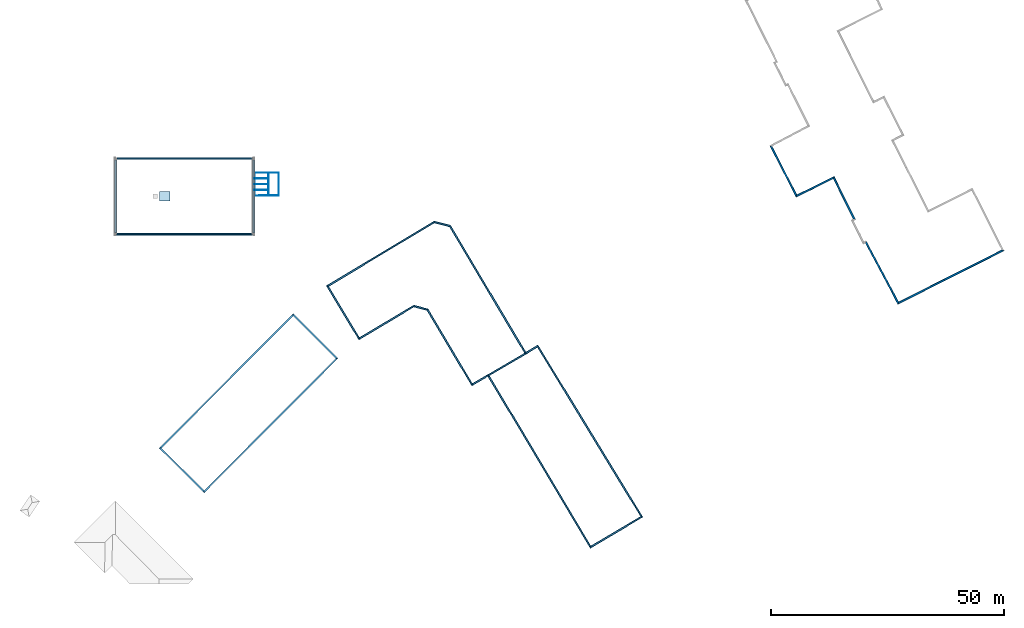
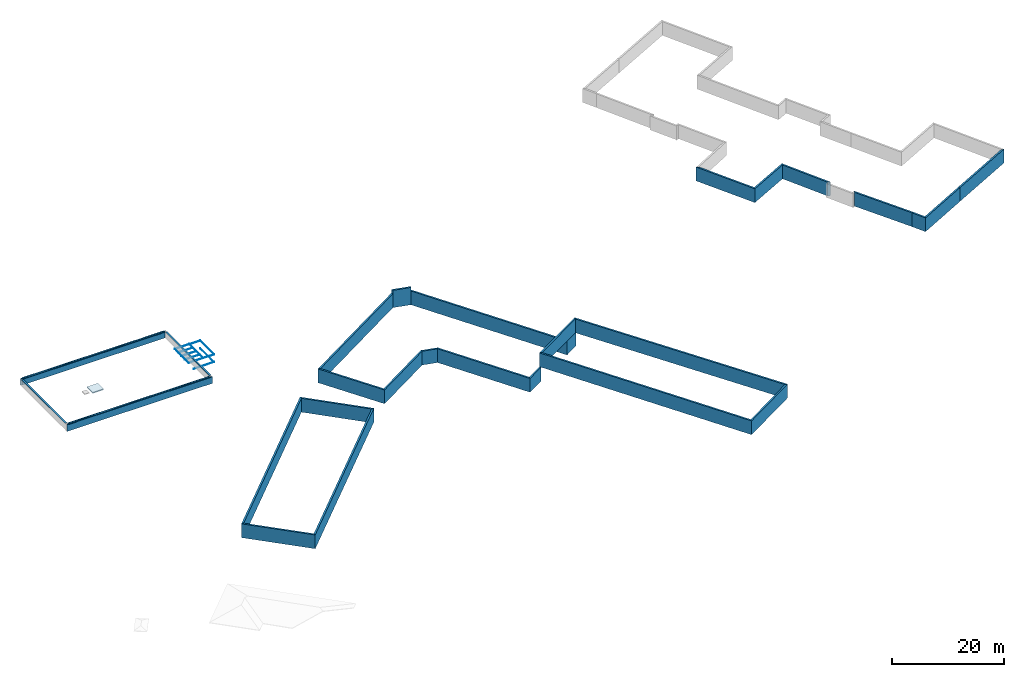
# One storey, part 1 of 8: 26 walls, 14 beams, 1 slab.
"""IFC2X3 building model written with IfcOpenShell, lengths in metres."""

from ifc_helpers import new_model, entity, si_unit, converted_unit, derived_unit, money_unit, direction, frame, origin_with_axes, origin_2d_with_axis, place, context, subcontext, project, spatial, polyline, rectangle, outline, extrude, material, layer, layer_set, layer_usage, type_object, element, save


model = new_model("IFC2X3")

# Units and contexts
model_context = context("Model", 3, precision=1e-05, world=origin_with_axes(), true_north=direction((0.0, 1.0)))
body_context = subcontext(model_context, "Body", "Model", "MODEL_VIEW")
ifc_project = project(units=[si_unit("LENGTHUNIT", "METRE"), si_unit("AREAUNIT", "SQUARE_METRE"), si_unit("VOLUMEUNIT", "CUBIC_METRE"), converted_unit("PLANEANGLEUNIT", "DEGREE", entity("IfcPlaneAngleMeasure", 0.0174532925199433), si_unit("PLANEANGLEUNIT", "RADIAN"), dimensions=[0, 0, 0, 0, 0, 0, 0]), money_unit("EUR"), converted_unit("TIMEUNIT", "Year", entity("IfcTimeMeasure", 31557600.0), si_unit("TIMEUNIT", "SECOND"), dimensions=[0, 0, 1, 0, 0, 0, 0]), si_unit("MASSUNIT", "GRAM", prefix="KILO"), si_unit("THERMODYNAMICTEMPERATUREUNIT", "DEGREE_CELSIUS"), si_unit("LUMINOUSINTENSITYUNIT", "LUMEN"), si_unit("ENERGYUNIT", "JOULE", prefix="MEGA"), derived_unit("THERMALCONDUCTANCEUNIT", [(si_unit("POWERUNIT", "WATT"), 1), (si_unit("LENGTHUNIT", "METRE"), -1), (si_unit("THERMODYNAMICTEMPERATUREUNIT", "KELVIN"), -1)]), derived_unit("SPECIFICHEATCAPACITYUNIT", [(si_unit("ENERGYUNIT", "JOULE"), 1), (si_unit("MASSUNIT", "GRAM", prefix="KILO"), -1), (si_unit("THERMODYNAMICTEMPERATUREUNIT", "KELVIN"), -1)]), derived_unit("MASSDENSITYUNIT", [(si_unit("MASSUNIT", "GRAM", prefix="KILO"), 1), (si_unit("VOLUMEUNIT", "CUBIC_METRE"), -1)])], contexts=[model_context])

# Site, building, storey
site_placement = place(None, origin_with_axes())
site = spatial("IfcSite", under=ifc_project, at=site_placement, Name="Site", CompositionType="ELEMENT")
building_placement = place(site_placement, origin_with_axes())
building = spatial("IfcBuilding", under=site, at=building_placement, Name="Bâtiment", CompositionType="ELEMENT")
storey_placement = place(building_placement, frame((0.0, 0.0, 7.12), z_axis=(0.0, 0.0, 1.0), x_axis=(1.0, 0.0, 0.0)))
storey = spatial("IfcBuildingStorey", under=building, at=storey_placement, Name="Combles", CompositionType="ELEMENT", Elevation=7.12)

# Beams
ifc_material_1 = material(Name="Métal - Fer")
beam_type_1 = type_object("IfcBeamType", Name="** COUVERTINE 01 50x5cm 379 x 50", PredefinedType="NOTDEFINED")
beam_1_placement = place(storey_placement, frame((54.09399999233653, -26.90756228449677, 1.100000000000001), z_axis=(0.0, 0.0, 1.0), x_axis=(1.0, 0.0, 0.0)))
element("IfcBeam", 1, at=beam_1_placement, inside=storey, type_object=beam_type_1, material=ifc_material_1, Name="PoBA-002", context=body_context, shape_type="SweptSolid", body=[
    extrude(outline(polyline([(-0.5020000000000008, 0.0), (-0.5000000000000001, 0.0), (-0.5000000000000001, 0.04799999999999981), (-0.125, 0.04799999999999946), (-0.125, 0.0), (-0.1230000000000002, 0.0), (-0.1230000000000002, 0.05000000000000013), (-0.5020000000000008, 0.05000000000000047), (-0.5020000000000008, 0.0)])), frame((0.0, 15.6000002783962, 0.0), z_axis=(0.0, 1.0, 0.0), x_axis=(-1.0, 0.0, 0.0)), (0.0, 0.0, -1.0), 15.6000002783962),
])
beam_2_placement = place(storey_placement, frame((25.09999999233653, -26.90756215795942, 1.100000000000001), z_axis=(0.0, 0.0, 1.0), x_axis=(1.0, 0.0, 0.0)))
element("IfcBeam", 2, at=beam_2_placement, inside=storey, type_object=beam_type_1, material=ifc_material_1, Name="PoBA-002", context=body_context, shape_type="SweptSolid", body=[
    extrude(outline(polyline([(-0.5020000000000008, 0.0), (-0.5000000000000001, 0.0), (-0.5000000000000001, 0.04799999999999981), (-0.125, 0.04799999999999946), (-0.125, 0.0), (-0.1230000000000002, 0.0), (-0.1230000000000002, 0.05000000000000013), (-0.5020000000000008, 0.05000000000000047), (-0.5020000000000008, 0.0)])), frame((0.0, 15.6000000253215, 0.0), z_axis=(0.0, -1.0, 0.0), x_axis=(1.0, 0.0, 0.0)), (0.0, 0.0, 1.0), 15.6000000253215),
])
beam_3_placement = place(storey_placement, frame((25.09999999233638, -11.30756213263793, 1.100000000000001), z_axis=(0.0, 0.0, 1.0), x_axis=(4.364260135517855e-09, -1.0, 0.0)))
element("IfcBeam", 3, at=beam_3_placement, inside=storey, type_object=beam_type_1, material=ifc_material_1, Name="PoBA-002", context=body_context, shape_type="SweptSolid", body=[
    extrude(outline(polyline([(-0.5020000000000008, 0.0), (-0.5000000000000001, 0.0), (-0.5000000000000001, 0.04799999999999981), (-0.125, 0.04799999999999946), (-0.125, 0.0), (-0.1230000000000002, 0.0), (-0.1230000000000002, 0.05000000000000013), (-0.5020000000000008, 0.05000000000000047), (-0.5020000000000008, 0.0)])), frame((0.0, 28.99400000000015, 0.0), z_axis=(0.0, -1.0, 0.0), x_axis=(1.0, 0.0, 0.0)), (0.0, 0.0, 1.0), 28.99400000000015),
])
beam_4_placement = place(storey_placement, frame((25.09999999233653, -26.90756215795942, 1.100000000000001), z_axis=(0.0, 0.0, 1.0), x_axis=(-4.364259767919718e-09, -1.0, 0.0)))
element("IfcBeam", 4, at=beam_4_placement, inside=storey, type_object=beam_type_1, material=ifc_material_1, Name="PoBA-002", context=body_context, shape_type="SweptSolid", body=[
    extrude(outline(polyline([(-0.5020000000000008, 0.0), (-0.5000000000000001, 0.0), (-0.5000000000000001, 0.04799999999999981), (-0.125, 0.04799999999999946), (-0.125, 0.0), (-0.1230000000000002, 0.0), (-0.1230000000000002, 0.05000000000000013), (-0.5020000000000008, 0.05000000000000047), (-0.5020000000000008, 0.0)])), frame((0.0, 28.994, 0.0), z_axis=(0.0, 1.0, 0.0), x_axis=(-1.0, 0.0, 0.0)), (0.0, 0.0, -1.0), 28.994),
])
ifc_material_2 = material(Name="Acier")
beam_type_2 = type_object("IfcBeamType", Name="UAP80 45 x 80", PredefinedType="NOTDEFINED")
beam_5_placement = place(storey_placement, frame((59.79999999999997, -18.95643230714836, -1.02), z_axis=(0.0, 0.0, 1.0), x_axis=(0.0, 1.0, 0.0)))
element("IfcBeam", 5, at=beam_5_placement, inside=storey, type_object=beam_type_2, material=ifc_material_2, Name="PoBA-004", context=body_context, shape_type="SweptSolid", body=[
    extrude(outline(polyline([(-0.0225, -0.04), (0.0225, -0.04), (0.0225, -0.032), (-0.0175, -0.032), (-0.0175, 0.032), (0.0225, 0.032), (0.0225, 0.04), (-0.0225, 0.04), (-0.0225, -0.04)])), frame((0.0, 5.192500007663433, 0.0), z_axis=(0.0, 1.0, 0.0), x_axis=(-1.0, 0.0, 0.0)), (0.0, 0.0, -1.0), 5.192500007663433),
])
beam_6_placement = place(storey_placement, frame((59.79999999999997, -14.00643230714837, -1.02), z_axis=(0.0, 0.0, 1.0), x_axis=(0.0, 1.0, 0.0)))
element("IfcBeam", 6, at=beam_6_placement, inside=storey, type_object=beam_type_2, material=ifc_material_2, Name="PoBA-004", context=body_context, shape_type="SweptSolid", body=[
    extrude(outline(polyline([(-0.0225, -0.04), (0.0225, -0.04), (0.0225, -0.032), (-0.0175, -0.032), (-0.0175, 0.032), (0.0225, 0.032), (0.0225, 0.04), (-0.0225, 0.04), (-0.0225, -0.04)])), frame((0.0, 5.192500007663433, 0.0), z_axis=(0.0, 1.0, 0.0), x_axis=(1.0, 0.0, 0.0)), (0.0, 0.0, -1.0), 5.192500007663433),
])
for number, where, z_axis, x_axis in (
    (7, (57.57999999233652, -14.00643230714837, -1.02), (0.0, 0.0, 1.0), (-1.0, 0.0, 0.0)),
    (8, (54.60749999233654, -14.00643230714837, -1.02), (0.0, 0.0, 1.0), (-1.0, 0.0, 0.0)),
    (9, (59.79999999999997, -14.00643230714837, -1.02), (0.0, 0.0, 1.0), (-1.0, 0.0, 0.0)),
):
    element("IfcBeam", number, at=place(storey_placement, frame(where, z_axis=z_axis, x_axis=x_axis)), inside=storey, type_object=beam_type_2, material=ifc_material_2, Name="PoBA-004", context=body_context, shape_type="SweptSolid", body=[
        extrude(outline(polyline([(-0.0225, -0.04), (0.0225, -0.04), (0.0225, -0.032), (-0.0175, -0.032), (-0.0175, 0.032), (0.0225, 0.032), (0.0225, 0.04), (-0.0225, 0.04), (-0.0225, -0.04)])), frame((0.0, 4.949999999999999, 0.0), z_axis=(0.0, 1.0, 0.0), x_axis=(-1.0, 0.0, 0.0)), (0.0, 0.0, -1.0), 4.949999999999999),
    ])
beam_type_3 = type_object("IfcBeamType", Name="Acier 50 x 50", PredefinedType="NOTDEFINED")
beam_7_placement = place(storey_placement, frame((59.77499999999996, -18.91643230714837, -2.709999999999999), z_axis=(0.0, 0.0, 1.0), x_axis=(0.0, 1.0, 0.0)))
element("IfcBeam", 10, at=beam_7_placement, inside=storey, type_object=beam_type_3, material=ifc_material_2, Name="PoBA-004", context=body_context, shape_type="SweptSolid", body=[
    extrude(rectangle(XDim=0.05, YDim=0.05, at=origin_2d_with_axis()), frame((0.0, 0.0, 0.0), z_axis=(0.0, 1.0, 0.0), x_axis=(0.0, 0.0, 1.0)), (0.0, 0.0, 1.0), 4.149999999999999),
])
beam_8_placement = place(storey_placement, frame((59.80249999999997, -18.93143230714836, -2.709999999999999), z_axis=(0.0, 0.0, 1.0), x_axis=(1.0, 0.0, 0.0)))
element("IfcBeam", 11, at=beam_8_placement, inside=storey, type_object=beam_type_3, material=ifc_material_2, Name="PoBA-004", context=body_context, shape_type="SweptSolid", body=[
    extrude(rectangle(XDim=0.05, YDim=0.05, at=origin_2d_with_axis()), frame((0.0, 0.0, 0.0), z_axis=(0.0, 1.0, 0.0), x_axis=(0.0, 0.0, 1.0)), (0.0, 0.0, 1.0), 4.89999999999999),
])
ifc_material_3 = material(Name="Aluminium")
beam_type_4 = type_object("IfcBeamType", Name="Aluminium 50 x 50", PredefinedType="NOTDEFINED")
for number, where, z_axis, x_axis in (
    (12, (57.55749999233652, -17.72047076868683, -1.034999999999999), (0.0, 0.0, 1.0), (0.0, 1.0, 0.0)),
    (13, (57.55749999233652, -16.48450923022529, -1.034999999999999), (0.0, 0.0, 1.0), (0.0, 1.0, 0.0)),
    (14, (57.55749999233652, -15.24854769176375, -1.034999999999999), (0.0, 0.0, 1.0), (0.0, 1.0, 0.0)),
):
    element("IfcBeam", number, at=place(storey_placement, frame(where, z_axis=z_axis, x_axis=x_axis)), inside=storey, type_object=beam_type_4, material=ifc_material_3, Name="PoBA-004", context=body_context, shape_type="SweptSolid", body=[
        extrude(rectangle(XDim=0.05, YDim=0.05, at=origin_2d_with_axis()), frame((0.0, 0.0, 0.0), z_axis=(0.0, 1.0, 0.0), x_axis=(0.0, 0.0, 1.0)), (0.0, 0.0, 1.0), 3.012499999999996),
    ])

# Slab
ifc_material_4 = material(Name="*FINITION SOL INT - sol souple")
ifc_layer_1 = layer(ifc_material_4, 0.02, ventilated="UNKNOWN")
ifc_material_5 = material(Name="*GENERIQUE - MAÇONNERIE")
ifc_layer_2 = layer(ifc_material_5, 0.2, ventilated="UNKNOWN")
ifc_layer_set_1 = layer_set([ifc_layer_1, ifc_layer_2], Name="*Plancher béton+FINITION")
ifc_layer_usage_1 = layer_usage(ifc_layer_set_1, "AXIS3", "NEGATIVE", 0.22)
slab_type = type_object("IfcSlabType", Name="*Plancher béton+FINITION 220", PredefinedType="FLOOR")
slab_placement = place(storey_placement, frame((34.19300800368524, -20.12456464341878, 0.4000000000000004), z_axis=(0.0, 0.0, 1.0), x_axis=(1.0, 0.0, 0.0)))
element("IfcSlab", 15, at=slab_placement, inside=storey, type_object=slab_type, material=ifc_layer_usage_1, Name="DC_BA_Isol-005", PredefinedType="FLOOR", context=body_context, shape_type="SweptSolid", body=[
    extrude(outline(polyline([(0.0, 0.0), (2.219999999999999, 0.0), (2.219999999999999, 2.027002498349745), (0.0, 2.027002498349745), (0.0, 0.0)])), frame((0.0, 0.0, -0.22), z_axis=(0.0, 0.0, 1.0), x_axis=(1.0, 0.0, 0.0)), (0.0, 0.0, 1.0), 0.22),
])

# Walls
ifc_material_6 = material(Name="*GENERIQUE - ENDUIT EXT")
ifc_layer_3 = layer(ifc_material_6, 0.02, ventilated="UNKNOWN")
ifc_layer_4 = layer(ifc_material_5, 0.2, ventilated="UNKNOWN")
ifc_material_7 = material(Name="*GENERIQUE - ISOLATION INT")
ifc_layer_5 = layer(ifc_material_7, 0.12, ventilated="UNKNOWN")
ifc_material_8 = material(Name="*PLAQUE DE PLATRE - DOUBLAGE")
ifc_layer_6 = layer(ifc_material_8, 0.013, ventilated="UNKNOWN")
ifc_layer_set_2 = layer_set([ifc_layer_3, ifc_layer_4, ifc_layer_5, ifc_layer_6], Name="*Mur MITI 36")
ifc_layer_usage_2 = layer_usage(ifc_layer_set_2, "AXIS2", "POSITIVE", -0.02)
wall_type_1 = type_object("IfcWallType", Name="*Mur MITI 36 353", PredefinedType="NOTDEFINED")
wall_1_placement = place(storey_placement, frame((72.4983360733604, -53.84594601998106, 1.000000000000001), z_axis=(0.0, 0.0, 1.0), x_axis=(-0.7089416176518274, 0.7052671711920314, 0.0)))
element("IfcWallStandardCase", 16, at=wall_1_placement, inside=storey, type_object=wall_type_1, material=ifc_layer_usage_2, Name="MC_AGL_Ext-060", context=body_context, shape_type="SweptSolid", body=[
    extrude(outline(polyline([(-0.0200082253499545, -0.01999999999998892), (13.59630887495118, -0.01999999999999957), (13.24333314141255, 0.3329999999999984), (0.3331369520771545, 0.3329999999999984), (-0.0200082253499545, -0.01999999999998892)])), origin_with_axes(), (0.0, 0.0, 1.0), 2.999999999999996),
])
ifc_layer_usage_3 = layer_usage(ifc_layer_set_2, "AXIS2", "POSITIVE", -0.02)
wall_2_placement = place(storey_placement, frame((178.7744943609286, -15.28329290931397, -6.700573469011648), z_axis=(0.0, 0.0, 1.0), x_axis=(0.4442260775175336, -0.8959147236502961, 0.0)))
element("IfcWallStandardCase", 17, at=wall_2_placement, inside=storey, type_object=wall_type_1, material=ifc_layer_usage_3, Name="MC_AGL_Ext-041", context=body_context, shape_type="SweptSolid", body=[
    extrude(outline(polyline([(0.02001353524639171, -0.02000000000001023), (9.682428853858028, -0.02000000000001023), (10.03331348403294, 0.3330000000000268), (-0.3332253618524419, 0.3330000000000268), (0.02001353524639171, -0.02000000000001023)])), origin_with_axes(), (0.0, 0.0, 1.0), 3.0),
])
ifc_layer_usage_4 = layer_usage(ifc_layer_set_2, "AXIS2", "POSITIVE", -0.02)
wall_3_placement = place(storey_placement, frame((185.6272301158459, -29.06940594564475, -6.700573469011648), z_axis=(0.0, 0.0, 1.0), x_axis=(0.4721927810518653, -0.8814953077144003, 0.0)))
element("IfcWallStandardCase", 18, at=wall_3_placement, inside=storey, type_object=wall_type_1, material=ifc_layer_usage_4, Name="MC_AGL_Ext-045", context=body_context, shape_type="SweptSolid", body=[
    extrude(outline(polyline([(0.01987737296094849, -0.02000000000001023), (12.03195418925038, -0.02000000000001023), (12.03677915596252, 0.3329999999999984), (-0.330958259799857, 0.3329999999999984), (0.01987737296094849, -0.02000000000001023)])), origin_with_axes(), (0.0, 0.0, 1.0), 3.0),
])
ifc_layer_usage_5 = layer_usage(ifc_layer_set_2, "AXIS2", "POSITIVE", -0.02)
wall_4_placement = place(storey_placement, frame((191.3087611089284, -39.67575807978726, -6.700573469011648), z_axis=(0.0, 0.0, 1.0), x_axis=(0.4479235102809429, -0.8940718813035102, 0.0)))
element("IfcWallStandardCase", 19, at=wall_4_placement, inside=storey, type_object=wall_type_1, material=ifc_layer_usage_5, Name="MC_AGL_Ext-046", context=body_context, shape_type="SweptSolid", body=[
    extrude(outline(polyline([(0.0002733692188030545, -0.01999999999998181), (2.909152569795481, -0.01999999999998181), (2.554311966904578, 0.3329999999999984), (-0.004551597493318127, 0.3329999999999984), (0.0002733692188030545, -0.01999999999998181)])), origin_with_axes(), (0.0, 0.0, 1.0), 3.0),
])
ifc_layer_usage_6 = layer_usage(ifc_layer_set_2, "AXIS2", "POSITIVE", -0.02)
wall_5_placement = place(storey_placement, frame((202.6450001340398, -37.1622177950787, -6.700573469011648), z_axis=(0.0, 0.0, 1.0), x_axis=(0.8929616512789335, 0.4501327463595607, 0.0)))
element("IfcWallStandardCase", 20, at=wall_5_placement, inside=storey, type_object=wall_type_1, material=ifc_layer_usage_6, Name="MC_AGL_Ext-048", context=body_context, shape_type="SweptSolid", body=[
    extrude(outline(polyline([(2.728087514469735e-05, -0.01999999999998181), (14.25727509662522, -0.01999999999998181), (13.90458367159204, 0.3330000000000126), (-0.000454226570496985, 0.3330000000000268), (2.728087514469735e-05, -0.01999999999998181)])), origin_with_axes(), (0.0, 0.0, 1.0), 3.0),
])
ifc_layer_usage_7 = layer_usage(ifc_layer_set_2, "AXIS2", "POSITIVE", -0.02)
wall_6_placement = place(storey_placement, frame((192.6028337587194, -42.25877491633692, -6.700573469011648), z_axis=(0.0, 0.0, 1.0), x_axis=(0.8917303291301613, 0.4525671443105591, 0.0)))
element("IfcWallStandardCase", 21, at=wall_6_placement, inside=storey, type_object=wall_type_1, material=ifc_layer_usage_7, Name="MC_AGL_Ext-047", context=body_context, shape_type="SweptSolid", body=[
    extrude(outline(polyline([(-0.02010428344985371, -0.02000000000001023), (11.26141134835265, -0.01999999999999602), (11.26189285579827, 0.3329999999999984), (0.3347363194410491, 0.3329999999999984), (-0.02010428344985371, -0.02000000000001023)])), origin_with_axes(), (0.0, 0.0, 1.0), 3.0),
])
ifc_layer_usage_8 = layer_usage(ifc_layer_set_2, "AXIS2", "POSITIVE", -0.02)
wall_7_placement = place(storey_placement, frame((170.8059068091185, -19.24111796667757, -6.700573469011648), z_axis=(0.0, 0.0, 1.0), x_axis=(0.895613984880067, 0.4448320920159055, 0.0)))
element("IfcWallStandardCase", 22, at=wall_7_placement, inside=storey, type_object=wall_type_1, material=ifc_layer_usage_8, Name="MC_AGL_Ext-040", context=body_context, shape_type="SweptSolid", body=[
    extrude(outline(polyline([(-0.01975610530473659, -0.02000000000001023), (8.877332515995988, -0.02000000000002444), (9.230571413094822, 0.3329999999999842), (0.3289391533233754, 0.3329999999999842), (-0.01975610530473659, -0.02000000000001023)])), origin_with_axes(), (0.0, 0.0, 1.0), 3.0),
])
ifc_layer_usage_9 = layer_usage(ifc_layer_set_2, "AXIS2", "NEGATIVE", 0.02)
wall_8_placement = place(storey_placement, frame((170.8059068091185, -19.24111796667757, -6.700573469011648), z_axis=(0.0, 0.0, 1.0), x_axis=(-0.4557869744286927, 0.8900888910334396, 0.0)))
element("IfcWallStandardCase", 23, at=wall_8_placement, inside=storey, type_object=wall_type_1, material=ifc_layer_usage_9, Name="MC_AGL_Ext-040", context=body_context, shape_type="SweptSolid", body=[
    extrude(outline(polyline([(0.3289391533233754, -0.3329999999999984), (12.05469288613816, -0.3329999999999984), (12.40307985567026, 0.02000000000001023), (-0.01975610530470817, 0.02000000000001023), (0.3289391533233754, -0.3329999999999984)])), origin_with_axes(), (0.0, 0.0, 1.0), 3.0),
])
ifc_layer_usage_10 = layer_usage(ifc_layer_set_2, "AXIS2", "POSITIVE", -0.02)
wall_9_placement = place(storey_placement, frame((70.0213957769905, -38.30799339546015, 1.000000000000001), z_axis=(0.0, 0.0, 1.0), x_axis=(0.5158196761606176, -0.8566971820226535, 0.0)))
element("IfcWallStandardCase", 24, at=wall_9_placement, inside=storey, type_object=wall_type_1, material=ifc_layer_usage_10, Name="MC_AGL_Ext-045", context=body_context, shape_type="SweptSolid", body=[
    extrude(outline(polyline([(-0.02002691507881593, -0.02000000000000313), (13.52509505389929, -0.01999999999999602), (13.17290351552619, 0.3330000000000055), (0.3334481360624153, 0.3330000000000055), (-0.02002691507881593, -0.02000000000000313)])), origin_with_axes(), (0.0, 0.0, 1.0), 2.999999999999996),
])
ifc_layer_usage_11 = layer_usage(ifc_layer_set_2, "AXIS2", "POSITIVE", -0.02)
wall_10_placement = place(storey_placement, frame((88.78263006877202, -42.81279641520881, 1.000000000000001), z_axis=(0.0, 0.0, 1.0), x_axis=(0.9682984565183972, -0.24979611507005, 0.0)))
element("IfcWallStandardCase", 25, at=wall_10_placement, inside=storey, type_object=wall_type_1, material=ifc_layer_usage_11, Name="MC_AGL_Ext-047", context=body_context, shape_type="SweptSolid", body=[
    extrude(outline(polyline([(0.00836337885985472, -0.01999999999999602), (2.876154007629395, -0.01999999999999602), (3.021637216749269, 0.3329999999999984), (-0.1392502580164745, 0.3329999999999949), (0.00836337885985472, -0.01999999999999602)])), origin_with_axes(), (0.0, 0.0, 1.0), 2.999999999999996),
])
ifc_layer_usage_12 = layer_usage(ifc_layer_set_2, "AXIS2", "POSITIVE", -0.02)
wall_11_placement = place(storey_placement, frame((91.57558692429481, -43.53330750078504, 1.000000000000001), z_axis=(0.0, 0.0, 1.0), x_axis=(0.5111150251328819, -0.8595123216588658, 0.0)))
element("IfcWallStandardCase", 26, at=wall_11_placement, inside=storey, type_object=wall_type_1, material=ifc_layer_usage_12, Name="MC_AGL_Ext-048", context=body_context, shape_type="SweptSolid", body=[
    extrude(outline(polyline([(0.008242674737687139, -0.01999999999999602), (18.87495966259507, -0.01999999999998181), (18.5217841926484, 0.3329999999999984), (-0.1372405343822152, 0.3329999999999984), (0.008242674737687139, -0.01999999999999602)])), origin_with_axes(), (0.0, 0.0, 1.0), 2.999999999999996),
])
ifc_layer_usage_13 = layer_usage(ifc_layer_set_2, "AXIS2", "POSITIVE", -0.02)
wall_12_placement = place(storey_placement, frame((101.2126350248, -59.73936911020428, 1.000000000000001), z_axis=(0.0, 0.0, 1.0), x_axis=(0.8592582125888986, 0.5115421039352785, 0.0)))
element("IfcWallStandardCase", 27, at=wall_12_placement, inside=storey, type_object=wall_type_1, material=ifc_layer_usage_13, Name="MC_AGL_Ext-049", context=body_context, shape_type="SweptSolid", body=[
    extrude(outline(polyline([(-0.02000994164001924, -0.02000000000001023), (4.013290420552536, -0.02000000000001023), (4.013290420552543, 0.3329999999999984), (0.3331655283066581, 0.3329999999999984), (-0.02000994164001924, -0.02000000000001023)])), origin_with_axes(), (0.0, 0.0, 1.0), 2.999999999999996),
])
ifc_layer_usage_14 = layer_usage(ifc_layer_set_2, "AXIS2", "POSITIVE", -0.02)
wall_13_placement = place(storey_placement, frame((104.5178511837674, -57.44594755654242, 4.000000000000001), z_axis=(0.0, 0.0, 1.0), x_axis=(0.5117711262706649, -0.8591218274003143, 0.0)))
element("IfcWallStandardCase", 28, at=wall_13_placement, inside=storey, type_object=wall_type_1, material=ifc_layer_usage_14, Name="MC_AGL_Ext-050", context=body_context, shape_type="SweptSolid", body=[
    extrude(outline(polyline([(-0.02011993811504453, -0.02000000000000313), (43.24436713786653, -0.02000000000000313), (42.8914988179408, 0.3330000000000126), (0.3349969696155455, 0.3329999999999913), (-0.02011993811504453, -0.02000000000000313)])), origin_with_axes(), (0.0, 0.0, 1.0), 2.999999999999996),
])
ifc_layer_usage_15 = layer_usage(ifc_layer_set_2, "AXIS2", "POSITIVE", -0.02)
wall_14_placement = place(storey_placement, frame((126.6388380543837, -94.58095124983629, 4.000000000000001), z_axis=(0.0, 0.0, 1.0), x_axis=(0.8593127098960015, 0.5114505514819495, 0.0)))
element("IfcWallStandardCase", 29, at=wall_14_placement, inside=storey, type_object=wall_type_1, material=ifc_layer_usage_15, Name="MC_AGL_Ext-051", context=body_context, shape_type="SweptSolid", body=[
    extrude(outline(polyline([(-0.01999253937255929, -0.02000000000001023), (13.10204743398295, -0.02000000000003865), (12.74510724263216, 0.33299999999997), (0.3328757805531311, 0.33299999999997), (-0.01999253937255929, -0.02000000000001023)])), origin_with_axes(), (0.0, 0.0, 1.0), 2.999999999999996),
])
ifc_layer_usage_16 = layer_usage(ifc_layer_set_2, "AXIS2", "POSITIVE", -0.02)
wall_15_placement = place(storey_placement, frame((137.8802158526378, -87.89024505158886, 4.000000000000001), z_axis=(0.0, 0.0, 1.0), x_axis=(-0.5209571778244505, 0.8535828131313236, 0.0)))
element("IfcWallStandardCase", 30, at=wall_15_placement, inside=storey, type_object=wall_type_1, material=ifc_layer_usage_16, Name="MC_AGL_Ext-052", context=body_context, shape_type="SweptSolid", body=[
    extrude(outline(polyline([(-0.02022324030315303, -0.02000000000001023), (43.17595814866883, -0.01999999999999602), (42.82880658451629, 0.3329999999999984), (0.3367169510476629, 0.3329999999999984), (-0.02022324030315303, -0.02000000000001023)])), origin_with_axes(), (0.0, 0.0, 1.0), 2.999999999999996),
])
ifc_layer_usage_17 = layer_usage(ifc_layer_set_2, "AXIS2", "POSITIVE", -0.02)
wall_16_placement = place(storey_placement, frame((115.3847148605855, -51.03160515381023, 1.000000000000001), z_axis=(0.0, 0.0, 1.0), x_axis=(-0.8585559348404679, -0.5127199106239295, 0.0)))
element("IfcWallStandardCase", 31, at=wall_16_placement, inside=storey, type_object=wall_type_1, material=ifc_layer_usage_17, Name="MC_AGL_Ext-053", context=body_context, shape_type="SweptSolid", body=[
    extrude(outline(polyline([(0.0, -0.02000000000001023), (2.978124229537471, -0.02000000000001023), (3.331863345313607, 0.3329999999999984), (0.0, 0.3329999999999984), (0.0, -0.02000000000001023)])), origin_with_axes(), (0.0, 0.0, 1.0), 2.999999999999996),
])
ifc_layer_usage_18 = layer_usage(ifc_layer_set_2, "AXIS2", "POSITIVE", -0.02)
wall_17_placement = place(storey_placement, frame((112.8106215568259, -52.56882461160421, 1.000000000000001), z_axis=(0.0, 0.0, 1.0), x_axis=(-0.5109230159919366, 0.8596264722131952, 0.0)))
element("IfcWallStandardCase", 32, at=wall_17_placement, inside=storey, type_object=wall_type_1, material=ifc_layer_usage_18, Name="MC_AGL_Ext-054", context=body_context, shape_type="SweptSolid", body=[
    extrude(outline(polyline([(0.02004187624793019, -0.01999999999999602), (31.69371470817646, -0.01999999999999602), (31.54705113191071, 0.3329999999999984), (-0.3336972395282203, 0.3330000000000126), (0.02004187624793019, -0.01999999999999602)])), origin_with_axes(), (0.0, 0.0, 1.0), 2.999999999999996),
])
ifc_layer_usage_19 = layer_usage(ifc_layer_set_2, "AXIS2", "POSITIVE", -0.02)
wall_18_placement = place(storey_placement, frame((96.62181879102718, -25.33121155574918, 1.000000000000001), z_axis=(0.0, 0.0, 1.0), x_axis=(-0.9696543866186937, 0.2444797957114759, 0.0)))
element("IfcWallStandardCase", 33, at=wall_18_placement, inside=storey, type_object=wall_type_1, material=ifc_layer_usage_19, Name="MC_AGL_Ext-055", context=body_context, shape_type="SweptSolid", body=[
    extrude(outline(polyline([(-0.0083095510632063, -0.02000000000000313), (3.62666608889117, -0.02000000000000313), (3.4799926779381, 0.3329999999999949), (0.1383540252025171, 0.3329999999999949), (-0.0083095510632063, -0.02000000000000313)])), origin_with_axes(), (0.0, 0.0, 1.0), 3.764653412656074),
])
ifc_layer_usage_20 = layer_usage(ifc_layer_set_2, "AXIS2", "POSITIVE", -0.02)
wall_19_placement = place(storey_placement, frame((93.1132640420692, -24.44659662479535, 1.000000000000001), z_axis=(0.0, 0.0, 1.0), x_axis=(-0.8573901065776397, -0.5146670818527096, 0.0)))
element("IfcWallStandardCase", 34, at=wall_19_placement, inside=storey, type_object=wall_type_1, material=ifc_layer_usage_20, Name="MC_AGL_Ext-056", context=body_context, shape_type="SweptSolid", body=[
    extrude(outline(polyline([(-0.008310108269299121, -0.01999999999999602), (26.9527709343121, -0.01999999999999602), (26.59929588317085, 0.3329999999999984), (0.1383633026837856, 0.3329999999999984), (-0.008310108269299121, -0.01999999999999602)])), origin_with_axes(), (0.0, 0.0, 1.0), 2.999999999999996),
])
ifc_layer_usage_21 = layer_usage(ifc_layer_set_2, "AXIS2", "POSITIVE", -0.02)
wall_20_placement = place(storey_placement, frame((76.98761316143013, -49.87780951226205, 1.000000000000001), z_axis=(0.0, 0.0, 1.0), x_axis=(0.8578776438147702, 0.513854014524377, 0.0)))
element("IfcWallStandardCase", 35, at=wall_20_placement, inside=storey, type_object=wall_type_1, material=ifc_layer_usage_21, Name="MC_AGL_Ext-046", context=body_context, shape_type="SweptSolid", body=[
    extrude(outline(polyline([(-0.0199541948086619, -0.02000000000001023), (13.74070327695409, -0.01999999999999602), (13.88831691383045, 0.3329999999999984), (0.332237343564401, 0.3329999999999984), (-0.0199541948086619, -0.02000000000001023)])), origin_with_axes(), (0.0, 0.0, 1.0), 2.999999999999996),
])
ifc_layer_usage_22 = layer_usage(ifc_layer_set_2, "AXIS2", "POSITIVE", -0.02)
wall_21_placement = place(storey_placement, frame((34.15653930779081, -73.13365248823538, 1.000000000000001), z_axis=(0.0, 0.0, 1.0), x_axis=(0.7106688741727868, -0.7035266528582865, 0.0)))
element("IfcWallStandardCase", 36, at=wall_21_placement, inside=storey, type_object=wall_type_1, material=ifc_layer_usage_22, Name="MC_AGL_Ext-058", context=body_context, shape_type="SweptSolid", body=[
    extrude(outline(polyline([(-0.02005048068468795, -0.01999999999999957), (13.58236516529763, -0.01999999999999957), (13.23037446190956, 0.3329999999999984), (0.333840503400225, 0.333000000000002), (-0.02005048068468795, -0.01999999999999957)])), origin_with_axes(), (0.0, 0.0, 1.0), 2.999999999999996),
])
ifc_layer_usage_23 = layer_usage(ifc_layer_set_2, "AXIS2", "POSITIVE", -0.02)
wall_22_placement = place(storey_placement, frame((62.87352472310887, -44.27102009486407, 1.000000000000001), z_axis=(0.0, 0.0, 1.0), x_axis=(-0.7053159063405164, -0.7088931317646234, 0.0)))
element("IfcWallStandardCase", 37, at=wall_22_placement, inside=storey, type_object=wall_type_1, material=ifc_layer_usage_23, Name="MC_AGL_Ext-057", context=body_context, shape_type="SweptSolid", body=[
    extrude(outline(polyline([(-0.01999862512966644, -0.01999999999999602), (40.73511894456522, -0.01999999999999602), (40.3812279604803, 0.3330000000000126), (0.3329771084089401, 0.3329999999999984), (-0.01999862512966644, -0.01999999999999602)])), origin_with_axes(), (0.0, 0.0, 1.0), 2.999999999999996),
])
ifc_layer_usage_24 = layer_usage(ifc_layer_set_2, "AXIS2", "POSITIVE", -0.02)
wall_23_placement = place(storey_placement, frame((43.79493072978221, -82.67517808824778, 1.000000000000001), z_axis=(0.0, 0.0, 1.0), x_axis=(0.7055586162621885, 0.7086515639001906, 0.0)))
element("IfcWallStandardCase", 38, at=wall_23_placement, inside=storey, type_object=wall_type_1, material=ifc_layer_usage_24, Name="MC_AGL_Ext-059", context=body_context, shape_type="SweptSolid", body=[
    extrude(outline(polyline([(-0.01994281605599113, -0.02000000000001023), (40.70182357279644, -0.01999999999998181), (40.34867839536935, 0.3329999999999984), (0.3320478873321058, 0.3329999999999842), (-0.01994281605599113, -0.02000000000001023)])), origin_with_axes(), (0.0, 0.0, 1.0), 2.999999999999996),
])
ifc_layer_usage_25 = layer_usage(ifc_layer_set_2, "AXIS2", "NEGATIVE", 0.02)
wall_24_placement = place(storey_placement, frame((104.5178511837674, -57.44594755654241, 4.000000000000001), z_axis=(0.0, 0.0, 1.0), x_axis=(0.8621663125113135, 0.506625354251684, 0.0)))
element("IfcWallStandardCase", 39, at=wall_24_placement, inside=storey, type_object=wall_type_1, material=ifc_layer_usage_25, Name="MC_AGL_Ext-050", context=body_context, shape_type="SweptSolid", body=[
    extrude(outline(polyline([(0.3349969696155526, -0.3329999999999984), (12.29164372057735, -0.3329999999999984), (12.63879528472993, 0.02000000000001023), (-0.02011993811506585, 0.02000000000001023), (0.3349969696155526, -0.3329999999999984)])), origin_with_axes(), (0.0, 0.0, 1.0), 3.0),
])
ifc_material_9 = material(Name="*MÉTAL- BARDAGE")
ifc_layer_7 = layer(ifc_material_9, 0.04, ventilated="UNKNOWN")
ifc_material_10 = material(Name="Divers - Vide faux plafond")
ifc_layer_8 = layer(ifc_material_10, 0.05, ventilated="UNKNOWN")
ifc_material_11 = material(Name="Finition int - Enduit plâtre")
ifc_layer_9 = layer(ifc_material_11, 0.01, ventilated="UNKNOWN")
ifc_layer_10 = layer(ifc_material_5, 0.2, ventilated="UNKNOWN")
ifc_layer_11 = layer(ifc_material_6, 0.018, ventilated="UNKNOWN")
ifc_layer_set_3 = layer_set([ifc_layer_7, ifc_layer_8, ifc_layer_9, ifc_layer_10, ifc_layer_11], Name="*MACONNERIE BARDAGE METAL Acrotère")
ifc_layer_usage_26 = layer_usage(ifc_layer_set_3, "AXIS2", "POSITIVE", -0.368)
wall_type_2 = type_object("IfcWallType", Name="*MACONNERIE BARDAGE METAL Acrotère 318", PredefinedType="NOTDEFINED")
wall_25_placement = place(storey_placement, frame((54.20199999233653, -11.14756214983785, -0.2541144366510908), z_axis=(0.0, 0.0, 1.0), x_axis=(-1.0, 5.910222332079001e-10, 0.0)))
element("IfcWallStandardCase", 40, at=wall_25_placement, inside=storey, type_object=wall_type_2, material=ifc_layer_usage_26, Name="Mur maçonné + ITI + véture métallique", context=body_context, shape_type="SweptSolid", body=[
    extrude(outline(polyline([(-0.367999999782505, -0.3680000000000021), (29.58000000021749, -0.3680000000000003), (29.26200000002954, -0.05000000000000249), (-0.04999999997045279, -0.05000000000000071), (-0.367999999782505, -0.3680000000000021)])), origin_with_axes(), (0.0, 0.0, 1.0), 1.354114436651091),
])
ifc_layer_usage_27 = layer_usage(ifc_layer_set_3, "AXIS2", "POSITIVE", -0.368)
wall_26_placement = place(storey_placement, frame((24.98999999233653, -27.06756215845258, -0.334784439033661), z_axis=(0.0, 0.0, 1.0), x_axis=(1.0, 0.0, 0.0)))
element("IfcWallStandardCase", 41, at=wall_26_placement, inside=storey, type_object=wall_type_2, material=ifc_layer_usage_27, Name="Mur maçonné + ITI + véture métallique", context=body_context, shape_type="SweptSolid", body=[
    extrude(outline(polyline([(-0.3680000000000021, -0.3679999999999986), (29.58000000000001, -0.3679999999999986), (29.26200000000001, -0.04999999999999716), (-0.04999999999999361, -0.04999999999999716), (-0.3680000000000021, -0.3679999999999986)])), origin_with_axes(), (0.0, 0.0, 1.0), 1.434784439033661),
])

save(model, "model.ifc")
